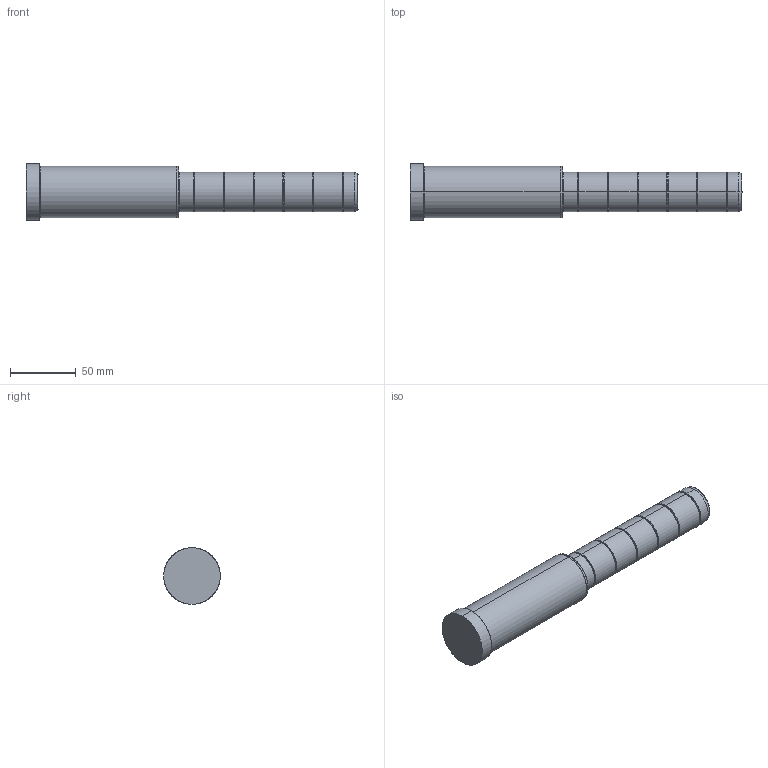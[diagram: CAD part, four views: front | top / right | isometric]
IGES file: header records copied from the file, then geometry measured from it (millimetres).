
Start section: SolidWorks IGES file using analytic representation for surfaces
Global section: file name: C:\Documents and Settings\kalite-mail\Desktop\IGS\D02\30\D02 - 30x116x136.IGS; native system: SolidWorks 2008; preprocessor: SolidWorks 2008; author: kalite-mail; date: 080617.094541; units: millimetre
Bounding box: 252 x 43 x 43 mm (x, y, z)
Surface area: 30224.9 mm2 (no closed solid volume)
Topology: 0 solids, 0 shells, 60 faces, 824 edges, 824 vertices
Faces by surface type: bspline 34, revolution 26
